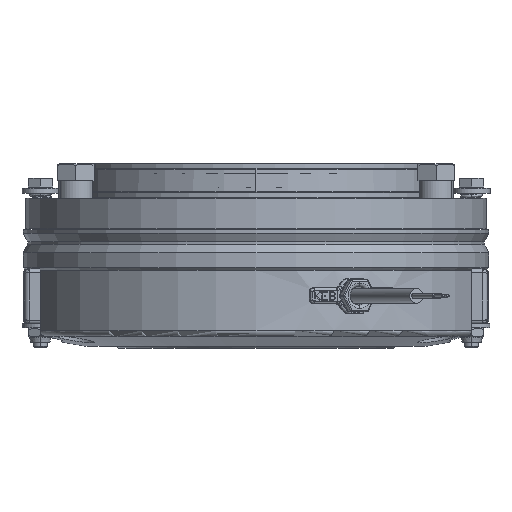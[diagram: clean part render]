
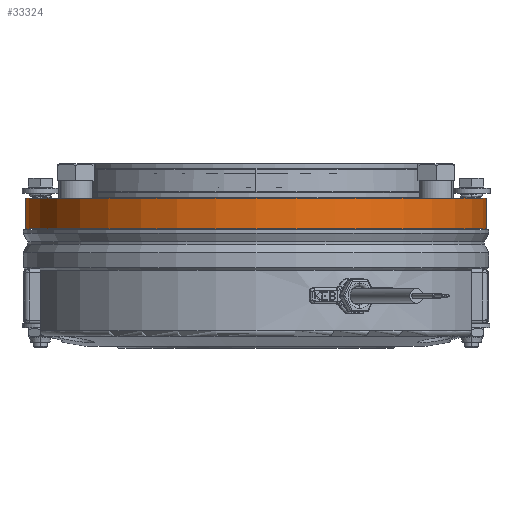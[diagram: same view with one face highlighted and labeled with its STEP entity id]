
A CAD part, front view. The second image highlights one B-rep face of the part: STEP entity #33324.
In plain terms, the highlighted cylindrical face has radius 94 mm (diameter 188 mm), a partial arc.
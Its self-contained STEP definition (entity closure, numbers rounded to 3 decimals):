
#1996 = AXIS2_PLACEMENT_3D ( 'NONE', #16194, #60984, #4094 ) ;
#4094 = DIRECTION ( 'NONE',  ( 1., 0., 0. ) ) ;
#4248 = CARTESIAN_POINT ( 'NONE',  ( 94., 0., 21.35 ) ) ;
#4645 = LINE ( 'NONE', #4248, #32715 ) ;
#6852 = LINE ( 'NONE', #49165, #64144 ) ;
#11242 = CARTESIAN_POINT ( 'NONE',  ( 94., 0., 12.5 ) ) ;
#11625 = EDGE_CURVE ( 'NONE', #75096, #15407, #56268, .T. ) ;
#11929 = ORIENTED_EDGE ( 'NONE', *, *, #11625, .T. ) ;
#14351 = CARTESIAN_POINT ( 'NONE',  ( -94., 0., 12.5 ) ) ;
#15407 = VERTEX_POINT ( 'NONE', #49310 ) ;
#16194 = CARTESIAN_POINT ( 'NONE',  ( 0., 0., 21.35 ) ) ;
#16607 = CARTESIAN_POINT ( 'NONE',  ( 0., 0., 12.5 ) ) ;
#17189 = ORIENTED_EDGE ( 'NONE', *, *, #73982, .T. ) ;
#20244 = VERTEX_POINT ( 'NONE', #11242 ) ;
#24233 = CARTESIAN_POINT ( 'NONE',  ( 0., 0., 0. ) ) ;
#25028 = DIRECTION ( 'NONE',  ( 0., 0., 1. ) ) ;
#28789 = CARTESIAN_POINT ( 'NONE',  ( -94., 0., 0. ) ) ;
#29443 = EDGE_LOOP ( 'NONE', ( #58668, #11929, #17189, #53110 ) ) ;
#30360 = AXIS2_PLACEMENT_3D ( 'NONE', #16607, #40448, #34798 ) ;
#32715 = VECTOR ( 'NONE', #41363, 1000. ) ;
#33324 = ADVANCED_FACE ( 'NONE', ( #66205 ), #72695, .T. ) ;
#34798 = DIRECTION ( 'NONE',  ( 1., 0., 0. ) ) ;
#40448 = DIRECTION ( 'NONE',  ( 0., 0., 1. ) ) ;
#41363 = DIRECTION ( 'NONE',  ( 0., 0., 1. ) ) ;
#44526 = CIRCLE ( 'NONE', #30360, 94. ) ;
#44738 = AXIS2_PLACEMENT_3D ( 'NONE', #24233, #25028, #49605 ) ;
#48573 = VERTEX_POINT ( 'NONE', #14351 ) ;
#49165 = CARTESIAN_POINT ( 'NONE',  ( -94., 0., 21.35 ) ) ;
#49310 = CARTESIAN_POINT ( 'NONE',  ( 94., 0., 0. ) ) ;
#49605 = DIRECTION ( 'NONE',  ( 1., 0., 0. ) ) ;
#53110 = ORIENTED_EDGE ( 'NONE', *, *, #78879, .F. ) ;
#53774 = EDGE_CURVE ( 'NONE', #75096, #48573, #6852, .T. ) ;
#56268 = CIRCLE ( 'NONE', #44738, 94. ) ;
#58668 = ORIENTED_EDGE ( 'NONE', *, *, #53774, .F. ) ;
#60984 = DIRECTION ( 'NONE',  ( 0., 0., 1. ) ) ;
#64144 = VECTOR ( 'NONE', #73834, 1000. ) ;
#66205 = FACE_OUTER_BOUND ( 'NONE', #29443, .T. ) ;
#72695 = CYLINDRICAL_SURFACE ( 'NONE', #1996, 94. ) ;
#73834 = DIRECTION ( 'NONE',  ( 0., 0., 1. ) ) ;
#73982 = EDGE_CURVE ( 'NONE', #15407, #20244, #4645, .T. ) ;
#75096 = VERTEX_POINT ( 'NONE', #28789 ) ;
#78879 = EDGE_CURVE ( 'NONE', #48573, #20244, #44526, .T. ) ;
